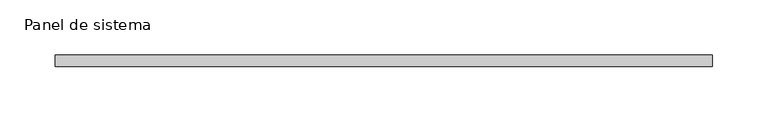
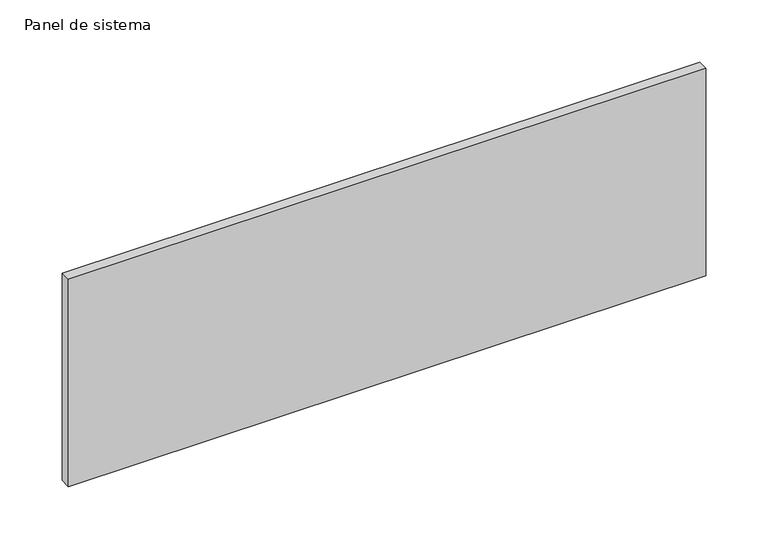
"""IFC4 building model written with IfcOpenShell, lengths in millimetres: plate geometry, Panel de sistema : Acristalado Superor."""

from ifc_helpers import new_model, si_unit, origin, origin_with_axes, place, context, project, spatial, polyline, outline, extrude, source, transform, mapped, element, save


def panel_de_sistema_c84e7177(model_context):
    return source(origin(), model_context, "Body", "SweptSolid", [
        extrude(outline(polyline([(296.1211745, -25.0), (-296.1211745, -25.0), (-296.1211745, -15.0), (296.1211745, -15.0), (296.1211745, -25.0)])), origin_with_axes(), (0.0, 0.0, 1.0), 203.5244088),
    ])


if __name__ == "__main__":
    model = new_model("IFC4")
    model_context = context("Model", 3, world=origin())
    ifc_project = project(units=[si_unit("LENGTHUNIT", "METRE", prefix="MILLI")], contexts=[model_context])
    site = spatial("IfcSite", under=ifc_project)
    building = spatial("IfcBuilding", under=site)
    placement = place(None, origin())
    panel_de_sistema_shape = panel_de_sistema_c84e7177(model_context)
    element("IfcPlate", 1, ObjectType="Panel de sistema : Acristalado Superor", at=placement, inside=building, context=model_context, shape_type="MappedRepresentation", body=[
        mapped(panel_de_sistema_shape, transform((0.0, 0.0, 0.0), x_axis=(1.0, 0.0, 0.0), y_axis=(0.0, 1.0, 0.0), z_axis=(0.0, 0.0, 1.0))),
    ])
    save(model, "model.ifc")
